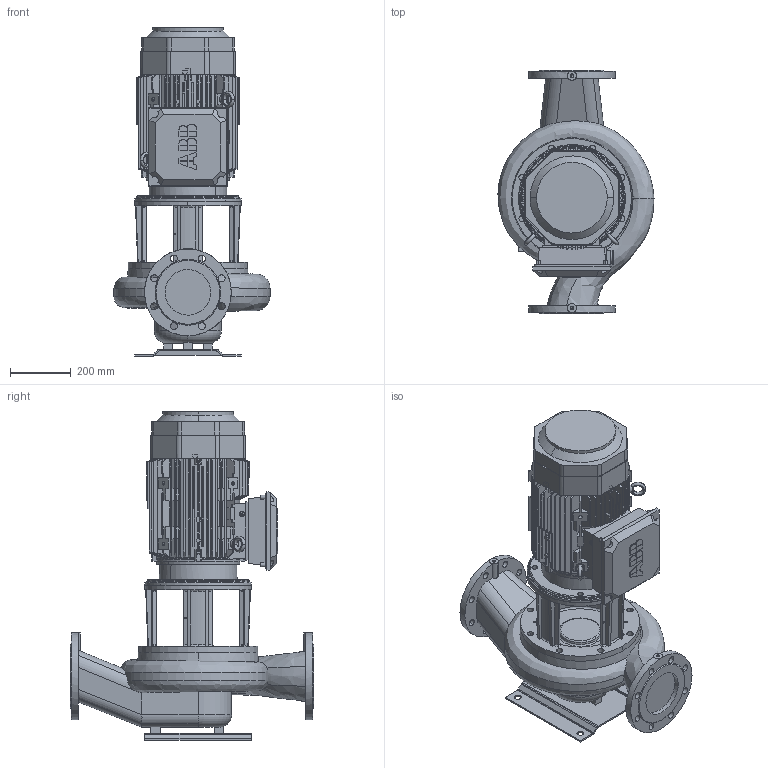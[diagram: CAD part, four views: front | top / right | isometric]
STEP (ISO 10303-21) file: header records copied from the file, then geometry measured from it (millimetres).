
FILE_DESCRIPTION(('STEP AP214'),'1');
FILE_NAME('export.stp','2018-05-29T13:27:46',(' '),(' '),'Spatial InterOp 3D',' ',' ');
FILE_SCHEMA(('AUTOMOTIVE_DESIGN { 1 0 10303 214 1 1 1 1 }'));
Length unit declared in the file: millimetre
Products named in the file (20): W_AL11544SD150; V_TL110611291154; P100496; P100495; P100342; V_PPAL1154; IEC160_FRAME; P100781; IEC-160; -simplified-simplified_parts_Ter; 3GZV244000-310999-294000-299999_; -simplified-simplified_parts_Fan; -simplified-simplified_parts_M2_; -simplified-simplified_parts_Sta; Implementation-HOUSING_Lifting_E; 3GZV183002-193006-183002-183999_; 3GZV311000-999999-324000-324001_
Assembly tree (21 placements, depth 4):
  W_AL11544SD150
    V_TL110611291154
    P100496
      P100495  x2
      P100342
    V_PPAL1154
    IEC160_FRAME
      P100781
      IEC-160
        -simplified-simplified_parts_Ter
        -simplified-simplified_parts_Ter
        3GZV244000-310999-294000-299999_
        -simplified-simplified_parts_Fan
        -simplified-simplified_parts_M2_
        -simplified-simplified_parts_Sta
        Implementation-HOUSING_Lifting_E  x2
        3GZV244000-310999-294000-299999_
        3GZV244000-310999-294000-299999_
        3GZV183002-193006-183002-183999_
        3GZV311000-999999-324000-324001_
Bounding box: 513.02 x 800 x 1079.68 mm (x, y, z)
Volume: 85624548.1 mm3; surface area: 4575911 mm2
Topology: 15 solids, 110 shells, 1616 faces, 4476 edges, 3010 vertices
Faces by surface type: bspline 1226, cylinder 214, plane 100, torus 44, cone 32
Entity records: 84996 total; most frequent: CARTESIAN_POINT 29024, ORIENTED_EDGE 8245, STYLED_ITEM 4463, PRESENTATION_STYLE_ASSIGNMENT 4463, COLOUR_RGB 4463, EDGE_CURVE 4329, VERTEX_POINT 2927, CURVE_STYLE 2875
